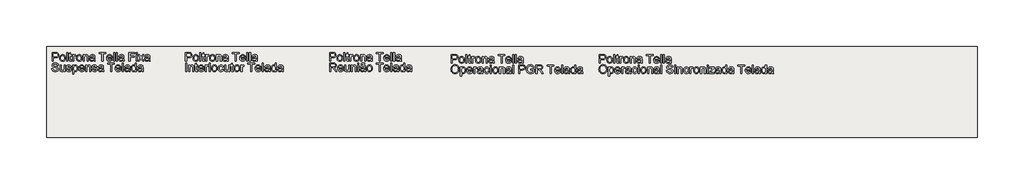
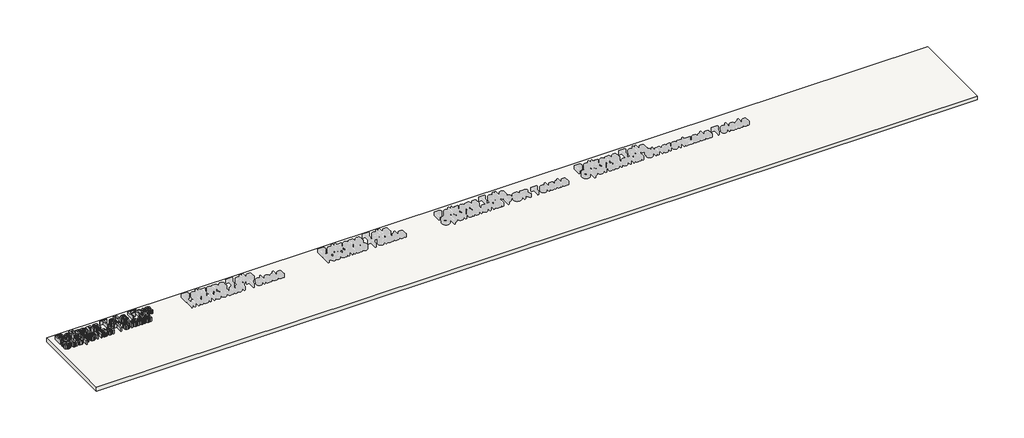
# One storey, part 1 of 5: 1 proxy, 1 slab.
"""IFC4 building model written with IfcOpenShell, lengths in millimetres."""

from ifc_helpers import new_model, si_unit, frame, origin, origin_with_axes, place, context, project, spatial, polyline, outline, extrude, element, save

model = new_model("IFC4")

# Units and contexts
model_context = context("Model", 3, world=origin())
ifc_project = project(units=[si_unit("LENGTHUNIT", "METRE", prefix="MILLI")], contexts=[model_context])

# Site, building, storey
site = spatial("IfcSite", under=ifc_project)
building = spatial("IfcBuilding", under=site)
storey = spatial("IfcBuildingStorey", under=building, Name="Nível 1", Elevation=0.0)

# Proxy
placement = place(None, origin())
element("IfcBuildingElementProxy", 1, Name="300 mm", ObjectType="300 mm", at=placement, inside=storey, context=model_context, shape_type="SweptSolid", body=[
    extrude(outline(polyline([(-9733.4445609, 6303.2273262), (-9733.4445609, 6604.5962566), (-9621.7555872, 6604.5962566), (-9576.726831, 6601.7267771), (-9556.6496711, 6596.364897), (-9540.1225724, 6587.6368966), (-9526.8144413, 6575.1473029), (-9516.3941838, 6558.5006426), (-9509.6619432, 6538.8649411), (-9507.4178631, 6517.4082238), (-9508.933077, 6498.9083579), (-9513.4787189, 6481.8892171), (-9521.0547888, 6466.3508014), (-9531.6612866, 6452.2931106), (-9546.2225158, 6440.6404484), (-9565.66278, 6432.3171183), (-9589.9820791, 6427.3231202), (-9619.1804132, 6425.6584542), (-9695.7734446, 6425.6584542), (-9695.7734446, 6303.2273262), (-9733.4445609, 6303.2273262)]), holes=[polyline([(-9695.7734446, 6463.3295705), (-9616.9731212, 6463.3295705), (-9583.5694361, 6466.7876612), (-9561.4965164, 6477.1619335), (-9549.1908636, 6493.8085938), (-9545.0889794, 6516.0838486), (-9547.5078035, 6533.0064204), (-9554.7642759, 6547.2802418), (-9565.9570856, 6558.022396), (-9580.1849217, 6564.3499663), (-9617.856038, 6566.9251403), (-9695.7734446, 6566.9251403), (-9695.7734446, 6463.3295705)])]), origin_with_axes(), (0.0, 0.0, 1.0), 150.0),
    extrude(outline(polyline([(-9469.7467468, 6413.8862303), (-9467.7096002, 6442.5488363), (-9461.5981606, 6467.2475137), (-9451.4124278, 6487.9822627), (-9437.152402, 6504.7530831), (-9422.7958071, 6515.4722448), (-9406.9492902, 6523.1287888), (-9389.6128512, 6527.7227152), (-9370.7864901, 6529.254024), (-9350.0034566, 6527.3893221), (-9331.2115844, 6521.7952165), (-9314.4108736, 6512.4717072), (-9299.601324, 6499.4187942), (-9287.5141012, 6483.0779358), (-9278.8803706, 6463.8905905), (-9273.7001323, 6441.8567583), (-9271.9733862, 6416.9764391), (-9275.0268067, 6378.9190467), (-9284.1870684, 6349.9483396), (-9299.1874568, 6328.2524989), (-9319.7612573, 6312.0197058), (-9344.1978189, 6301.8937539), (-9370.7864901, 6298.5184366), (-9391.8730262, 6300.3762407), (-9410.8396423, 6305.9496529), (-9427.6863384, 6315.2386733), (-9442.4131145, 6328.2433018), (-9454.3715786, 6344.7428093), (-9462.9133387, 6364.5164666), (-9468.0383947, 6387.5642736), (-9469.7467468, 6413.8862303)]), holes=[polyline([(-9432.0756305, 6413.9598067), (-9427.7162288, 6379.8663428), (-9414.6380239, 6355.5769341), (-9394.9563371, 6341.0363982), (-9370.7864901, 6336.1895529), (-9346.7270076, 6341.0639894), (-9327.082109, 6355.6872987), (-9314.0039041, 6380.2986042), (-9309.6445025, 6415.1370291), (-9314.0314953, 6448.2372116), (-9327.1924736, 6472.1955265), (-9346.8649633, 6486.7360624), (-9370.7864901, 6491.5829077), (-9394.9563371, 6486.7544565), (-9414.6380239, 6472.2691029), (-9427.7162288, 6448.0348765), (-9432.0756305, 6413.9598067)])]), origin_with_axes(), (0.0, 0.0, 1.0), 150.0),
    extrude(outline(polyline([(-9229.5933803, 6303.2273262), (-9229.5933803, 6604.5962566), (-9191.922264, 6604.5962566), (-9191.922264, 6303.2273262), (-9229.5933803, 6303.2273262)])), origin_with_axes(), (0.0, 0.0, 1.0), 150.0),
    extrude(outline(polyline([(-9055.3644674, 6334.6444486), (-9050.6555779, 6302.1236802), (-9078.8353387, 6298.5184366), (-9096.9167388, 6300.0819351), (-9110.3996139, 6304.7724305), (-9119.9277576, 6312.0013117), (-9126.1449633, 6321.1799675), (-9129.5662658, 6336.943711), (-9130.7067, 6363.9278554), (-9130.7067, 6486.8740182), (-9158.9600372, 6486.8740182), (-9158.9600372, 6524.5451345), (-9130.7067, 6524.5451345), (-9130.7067, 6578.3294822), (-9093.0355837, 6600.4759783), (-9093.0355837, 6524.5451345), (-9055.3644674, 6524.5451345), (-9055.3644674, 6486.8740182), (-9093.0355837, 6486.8740182), (-9093.0355837, 6365.0315014), (-9091.0490209, 6345.607332), (-9084.611086, 6338.7279387), (-9071.7720044, 6336.1895529), (-9055.3644674, 6334.6444486)])), origin_with_axes(), (0.0, 0.0, 1.0), 150.0),
    extrude(outline(polyline([(-9017.6933511, 6303.2273262), (-9017.6933511, 6524.5451345), (-8984.7311243, 6524.5451345), (-8984.7311243, 6491.8036369), (-8972.5542303, 6510.7863478), (-8961.3338294, 6521.9699605), (-8950.0766404, 6527.4330081), (-8937.7893817, 6529.254024), (-8919.0274, 6526.3477562), (-8899.9711126, 6517.628953), (-8912.5526769, 6483.8573858), (-8925.7964287, 6489.6515272), (-8939.0401805, 6491.5829077), (-8950.2881725, 6489.7251036), (-8960.340548, 6484.1516914), (-8968.4615431, 6475.2857353), (-8973.9153937, 6463.5502997), (-8978.4955245, 6442.5074495), (-8980.0222348, 6419.551613), (-8980.0222348, 6303.2273262), (-9017.6933511, 6303.2273262)])), origin_with_axes(), (0.0, 0.0, 1.0), 150.0),
    extrude(outline(polyline([(-8885.844444, 6413.8862303), (-8883.8072975, 6442.5488363), (-8877.6958578, 6467.2475137), (-8867.5101251, 6487.9822627), (-8853.2500992, 6504.7530831), (-8838.8935044, 6515.4722448), (-8823.0469874, 6523.1287888), (-8805.7105484, 6527.7227152), (-8786.8841873, 6529.254024), (-8766.1011539, 6527.3893221), (-8747.3092817, 6521.7952165), (-8730.5085708, 6512.4717072), (-8715.6990213, 6499.4187942), (-8703.6117984, 6483.0779358), (-8694.9780679, 6463.8905905), (-8689.7978295, 6441.8567583), (-8688.0710834, 6416.9764391), (-8691.124504, 6378.9190467), (-8700.2847657, 6349.9483396), (-8715.285154, 6328.2524989), (-8735.8589546, 6312.0197058), (-8760.2955161, 6301.8937539), (-8786.8841873, 6298.5184366), (-8807.9707234, 6300.3762407), (-8826.9373395, 6305.9496529), (-8843.7840357, 6315.2386733), (-8858.5108118, 6328.2433018), (-8870.4692759, 6344.7428093), (-8879.011036, 6364.5164666), (-8884.136092, 6387.5642736), (-8885.844444, 6413.8862303)]), holes=[polyline([(-8848.1733277, 6413.9598067), (-8843.8139261, 6379.8663428), (-8830.7357211, 6355.5769341), (-8811.0540344, 6341.0363982), (-8786.8841873, 6336.1895529), (-8762.8247048, 6341.0639894), (-8743.1798063, 6355.6872987), (-8730.1016014, 6380.2986042), (-8725.7421997, 6415.1370291), (-8730.1291925, 6448.2372116), (-8743.2901709, 6472.1955265), (-8762.9626606, 6486.7360624), (-8786.8841873, 6491.5829077), (-8811.0540344, 6486.7544565), (-8830.7357211, 6472.2691029), (-8843.8139261, 6448.0348765), (-8848.1733277, 6413.9598067)])]), origin_with_axes(), (0.0, 0.0, 1.0), 150.0),
    extrude(outline(polyline([(-8645.6910776, 6303.2273262), (-8645.6910776, 6524.5451345), (-8608.0199613, 6524.5451345), (-8608.0199613, 6493.6430469), (-8594.9325593, 6509.2228494), (-8579.214801, 6520.3512797), (-8560.8666865, 6527.0283379), (-8539.8882158, 6529.254024), (-8521.319372, 6527.4605993), (-8504.3140268, 6522.0803251), (-8490.1321759, 6513.7845861), (-8480.0338151, 6503.2447669), (-8468.7398379, 6475.5432527), (-8466.7532751, 6439.1229352), (-8466.7532751, 6303.2273262), (-8504.4243914, 6303.2273262), (-8504.4243914, 6434.0461636), (-8508.765399, 6467.3762724), (-8514.7710725, 6477.2998892), (-8524.1060782, 6484.99782), (-8536.0714401, 6489.9366358), (-8549.9681824, 6491.5829077), (-8572.0319051, 6487.8856936), (-8590.8398721, 6476.7940515), (-8598.3561611, 6467.7395559), (-8603.724939, 6455.3649253), (-8608.0199613, 6420.655259), (-8608.0199613, 6303.2273262), (-8645.6910776, 6303.2273262)])), origin_with_axes(), (0.0, 0.0, 1.0), 150.0),
    extrude(outline(polyline([(-8273.688804, 6331.4806634), (-8291.6874307, 6316.0480137), (-8310.2194862, 6305.9496529), (-8329.7080349, 6300.3762407), (-8350.576141, 6298.5184366), (-8382.0576428, 6302.9882029), (-8405.2801937, 6316.3975016), (-8419.6000004, 6336.75977), (-8424.3732693, 6362.0884454), (-8422.5706475, 6377.7050361), (-8417.1627822, 6391.886887), (-8408.8210579, 6404.0269928), (-8398.2168594, 6413.5183483), (-8371.8397204, 6425.8791834), (-8339.2453756, 6431.5445661), (-8300.7281307, 6437.5042544), (-8273.9095332, 6444.4940123), (-8273.688804, 6452.8817218), (-8276.2823721, 6469.693929), (-8284.0630763, 6480.6936006), (-8301.4638947, 6488.8605809), (-8325.7073182, 6491.5829077), (-8348.1481199, 6489.7710889), (-8363.8198929, 6484.3356324), (-8374.5068648, 6474.2832569), (-8381.9932634, 6458.6206809), (-8419.6643797, 6463.3295705), (-8413.1252773, 6483.9309622), (-8403.3672073, 6500.11777), (-8389.479662, 6512.4969991), (-8370.5521334, 6521.6756549), (-8347.4031588, 6527.3594317), (-8320.8512758, 6529.254024), (-8295.3846447, 6527.5801609), (-8275.1971202, 6522.5585717), (-8259.9760027, 6515.0077937), (-8249.4085924, 6505.7463645), (-8242.4004404, 6494.2960374), (-8237.8570977, 6480.1785658), (-8236.0176877, 6447.2163391), (-8236.0176877, 6400.3481729), (-8234.1047014, 6334.9019659), (-8226.5999087, 6303.2273262), (-8264.271025, 6303.2273262), (-8273.688804, 6331.4806634)]), holes=[polyline([(-8273.688804, 6406.822896), (-8334.4629096, 6395.2714014), (-8366.8733134, 6389.1645602), (-8381.551805, 6379.2317464), (-8386.702153, 6364.7371958), (-8383.8970528, 6353.535189), (-8375.4817521, 6344.3565332), (-8361.640192, 6338.231298), (-8342.5563135, 6336.1895529), (-8322.3228038, 6338.4428302), (-8304.4437388, 6345.2026618), (-8289.9491882, 6355.1630668), (-8279.8692216, 6367.0180641), (-8275.3994553, 6379.2317464), (-8273.9095332, 6396.1543181), (-8273.688804, 6406.822896)])]), origin_with_axes(), (0.0, 0.0, 1.0), 150.0),
    extrude(outline(polyline([(-7986.4465422, 6303.2273262), (-7986.4465422, 6566.9251403), (-8085.3332225, 6566.9251403), (-8085.3332225, 6604.5962566), (-7849.8887456, 6604.5962566), (-7849.8887456, 6566.9251403), (-7948.7754259, 6566.9251403), (-7948.7754259, 6303.2273262), (-7986.4465422, 6303.2273262)])), origin_with_axes(), (0.0, 0.0, 1.0), 150.0),
    extrude(outline(polyline([(-7657.2657329, 6369.1517797), (-7620.3303806, 6364.4428902), (-7633.6385118, 6336.6126172), (-7654.8745, 6315.8088904), (-7683.5600985, 6302.8410501), (-7719.2170609, 6298.5184366), (-7742.5913632, 6300.3831385), (-7763.4180826, 6305.9772441), (-7781.6972193, 6315.3007534), (-7797.4287731, 6328.3536664), (-7810.0793152, 6344.7726997), (-7819.1154167, 6364.1945698), (-7824.5370776, 6386.6192767), (-7826.3442979, 6412.0468203), (-7824.5186835, 6438.3365874), (-7819.0418403, 6461.5085546), (-7809.9137683, 6481.5627219), (-7797.1344675, 6498.4990892), (-7781.4443004, 6511.9543732), (-7763.5836295, 6521.5652903), (-7743.5524549, 6527.3318406), (-7721.3507765, 6529.254024), (-7699.8641687, 6527.3364391), (-7680.4331016, 6521.5836844), (-7663.0575751, 6511.9957599), (-7647.7375893, 6498.5726656), (-7635.2319007, 6481.6730864), (-7626.299266, 6461.6557074), (-7620.9396852, 6438.5205284), (-7619.1531582, 6412.2675495), (-7619.3738874, 6402.1140065), (-7788.6731816, 6402.1140065), (-7782.1524732, 6373.9158515), (-7767.0049321, 6353.1857011), (-7745.1435445, 6340.43859), (-7718.4812969, 6336.1895529), (-7698.4317282, 6338.1577216), (-7681.5459446, 6344.0622276), (-7667.8239462, 6354.270953), (-7657.2657329, 6369.1517797)]), holes=[polyline([(-7788.6731816, 6439.7851228), (-7656.8242745, 6439.7851228), (-7661.9194402, 6459.6875387), (-7671.9074363, 6473.9245719), (-7693.8699914, 6487.1683238), (-7721.4979293, 6491.5829077), (-7746.890984, 6488.0604376), (-7767.8878489, 6477.4930273), (-7782.483567, 6461.0211109), (-7788.6731816, 6439.7851228)])]), origin_with_axes(), (0.0, 0.0, 1.0), 150.0),
    extrude(outline(polyline([(-7581.4820419, 6303.2273262), (-7581.4820419, 6604.5962566), (-7543.8109256, 6604.5962566), (-7543.8109256, 6303.2273262), (-7581.4820419, 6303.2273262)])), origin_with_axes(), (0.0, 0.0, 1.0), 150.0),
    extrude(outline(polyline([(-7487.3042512, 6303.2273262), (-7487.3042512, 6604.5962566), (-7449.6331349, 6604.5962566), (-7449.6331349, 6303.2273262), (-7487.3042512, 6303.2273262)])), origin_with_axes(), (0.0, 0.0, 1.0), 150.0),
    extrude(outline(polyline([(-7251.8597742, 6331.4806634), (-7269.8584009, 6316.0480137), (-7288.3904564, 6305.9496529), (-7307.8790051, 6300.3762407), (-7328.7471112, 6298.5184366), (-7360.228613, 6302.9882029), (-7383.4511639, 6316.3975016), (-7397.7709706, 6336.75977), (-7402.5442395, 6362.0884454), (-7400.7416177, 6377.7050361), (-7395.3337524, 6391.886887), (-7386.9920281, 6404.0269928), (-7376.3878296, 6413.5183483), (-7350.0106906, 6425.8791834), (-7317.4163458, 6431.5445661), (-7278.8991009, 6437.5042544), (-7252.0805034, 6444.4940123), (-7251.8597742, 6452.8817218), (-7254.4533423, 6469.693929), (-7262.2340465, 6480.6936006), (-7279.6348649, 6488.8605809), (-7303.8782884, 6491.5829077), (-7326.3190901, 6489.7710889), (-7341.9908631, 6484.3356324), (-7352.677835, 6474.2832569), (-7360.1642336, 6458.6206809), (-7397.8353499, 6463.3295705), (-7391.2962475, 6483.9309622), (-7381.5381775, 6500.11777), (-7367.6506322, 6512.4969991), (-7348.7231036, 6521.6756549), (-7325.574129, 6527.3594317), (-7299.022246, 6529.254024), (-7273.5556149, 6527.5801609), (-7253.3680904, 6522.5585717), (-7238.1469729, 6515.0077937), (-7227.5795626, 6505.7463645), (-7220.5714106, 6494.2960374), (-7216.0280679, 6480.1785658), (-7214.1886579, 6447.2163391), (-7214.1886579, 6400.3481729), (-7212.2756716, 6334.9019659), (-7204.7708789, 6303.2273262), (-7242.4419952, 6303.2273262), (-7251.8597742, 6331.4806634)]), holes=[polyline([(-7251.8597742, 6406.822896), (-7312.6338798, 6395.2714014), (-7345.0442836, 6389.1645602), (-7359.7227752, 6379.2317464), (-7364.8731232, 6364.7371958), (-7362.0680229, 6353.535189), (-7353.6527223, 6344.3565332), (-7339.8111622, 6338.231298), (-7320.7272837, 6336.1895529), (-7300.493774, 6338.4428302), (-7282.614709, 6345.2026618), (-7268.1201584, 6355.1630668), (-7258.0401918, 6367.0180641), (-7253.5704255, 6379.2317464), (-7252.0805034, 6396.1543181), (-7251.8597742, 6406.822896)])]), origin_with_axes(), (0.0, 0.0, 1.0), 150.0),
    extrude(outline(polyline([(-7039.959745, 6303.2273262), (-7039.959745, 6604.5962566), (-6837.4774949, 6604.5962566), (-6837.4774949, 6566.9251403), (-7002.2886287, 6566.9251403), (-7002.2886287, 6477.4562391), (-6861.0219426, 6477.4562391), (-6861.0219426, 6439.7851228), (-7002.2886287, 6439.7851228), (-7002.2886287, 6303.2273262), (-7039.959745, 6303.2273262)])), origin_with_axes(), (0.0, 0.0, 1.0), 150.0),
    extrude(outline(polyline([(-6790.3885995, 6566.9251403), (-6790.3885995, 6604.5962566), (-6752.7174832, 6604.5962566), (-6752.7174832, 6566.9251403), (-6790.3885995, 6566.9251403)])), origin_with_axes(), (0.0, 0.0, 1.0), 150.0),
    extrude(outline(polyline([(-6790.3885995, 6303.2273262), (-6790.3885995, 6524.5451345), (-6752.7174832, 6524.5451345), (-6752.7174832, 6303.2273262), (-6790.3885995, 6303.2273262)])), origin_with_axes(), (0.0, 0.0, 1.0), 150.0),
    extrude(outline(polyline([(-6719.7552564, 6303.2273262), (-6639.2626759, 6414.4748415), (-6715.0463669, 6524.5451345), (-6669.7233051, 6524.5451345), (-6633.1558348, 6471.5701272), (-6616.0861102, 6446.5541515), (-6601.297254, 6467.0083904), (-6559.6530121, 6524.5451345), (-6514.3299503, 6524.5451345), (-6593.9396141, 6414.4748415), (-6517.2730063, 6303.2273262), (-6562.5960681, 6303.2273262), (-6608.7284703, 6370.1082729), (-6617.1897562, 6382.3219551), (-6674.4321946, 6303.2273262), (-6719.7552564, 6303.2273262)])), origin_with_axes(), (0.0, 0.0, 1.0), 150.0),
    extrude(outline(polyline([(-6343.0440934, 6331.4806634), (-6361.04272, 6316.0480137), (-6379.5747755, 6305.9496529), (-6399.0633242, 6300.3762407), (-6419.9314304, 6298.5184366), (-6451.4129321, 6302.9882029), (-6474.635483, 6316.3975016), (-6488.9552897, 6336.75977), (-6493.7285586, 6362.0884454), (-6491.9259368, 6377.7050361), (-6486.5180715, 6391.886887), (-6478.1763472, 6404.0269928), (-6467.5721487, 6413.5183483), (-6441.1950097, 6425.8791834), (-6408.6006649, 6431.5445661), (-6370.08342, 6437.5042544), (-6343.2648226, 6444.4940123), (-6343.0440934, 6452.8817218), (-6345.6376614, 6469.693929), (-6353.4183656, 6480.6936006), (-6370.819184, 6488.8605809), (-6395.0626075, 6491.5829077), (-6417.5034092, 6489.7710889), (-6433.1751822, 6484.3356324), (-6443.8621541, 6474.2832569), (-6451.3485527, 6458.6206809), (-6489.019669, 6463.3295705), (-6482.4805666, 6483.9309622), (-6472.7224967, 6500.11777), (-6458.8349513, 6512.4969991), (-6439.9074227, 6521.6756549), (-6416.7584481, 6527.3594317), (-6390.2065651, 6529.254024), (-6364.739934, 6527.5801609), (-6344.5524095, 6522.5585717), (-6329.331292, 6515.0077937), (-6318.7638817, 6505.7463645), (-6311.7557297, 6494.2960374), (-6307.212387, 6480.1785658), (-6305.3729771, 6447.2163391), (-6305.3729771, 6400.3481729), (-6303.4599907, 6334.9019659), (-6295.955198, 6303.2273262), (-6333.6263143, 6303.2273262), (-6343.0440934, 6331.4806634)]), holes=[polyline([(-6343.0440934, 6406.822896), (-6403.818199, 6395.2714014), (-6436.2286027, 6389.1645602), (-6450.9070943, 6379.2317464), (-6456.0574423, 6364.7371958), (-6453.2523421, 6353.535189), (-6444.8370414, 6344.3565332), (-6430.9954814, 6338.231298), (-6411.9116029, 6336.1895529), (-6391.6780931, 6338.4428302), (-6373.7990282, 6345.2026618), (-6359.3044775, 6355.1630668), (-6349.2245109, 6367.0180641), (-6344.7547446, 6379.2317464), (-6343.2648226, 6396.1543181), (-6343.0440934, 6406.822896)])]), origin_with_axes(), (0.0, 0.0, 1.0), 150.0),
    extrude(outline(polyline([(-9747.5712295, 6040.8984425), (-9709.9001132, 6040.8984425), (-9705.5774998, 6019.9935481), (-9697.7600074, 6003.190538), (-9685.5647192, 5989.8548156), (-9668.1087186, 5979.3517847), (-9646.7715628, 5972.5367707), (-9622.9328096, 5970.2650994), (-9601.9451417, 5971.9849477), (-9583.5694361, 5977.1444927), (-9568.6794123, 5985.311473), (-9558.1487902, 5996.0536273), (-9551.8855992, 6008.3868711), (-9549.7978689, 6021.3271203), (-9551.3613674, 6033.9362757), (-9556.0518628, 6044.8347798), (-9565.5800065, 6054.1329972), (-9581.6564497, 6061.9412926), (-9636.5076552, 6076.3254786), (-9672.5141055, 6085.8444252), (-9695.5527154, 6094.9035194), (-9714.3055001, 6107.5770541), (-9727.5952372, 6122.9361274), (-9735.5138971, 6140.6496455), (-9738.1534504, 6160.3865145), (-9734.8884977, 6182.4502372), (-9725.0936396, 6203.0240377), (-9709.0263935, 6220.4616443), (-9686.9442767, 6233.1167849), (-9660.438379, 6240.8147157), (-9631.0997898, 6243.3806926), (-9599.3147855, 6240.6951541), (-9571.5029066, 6232.6385384), (-9548.6574347, 6219.3763924), (-9531.7716512, 6201.0742632), (-9521.0846792, 6178.8725848), (-9516.8356421, 6153.9117914), (-9554.5067585, 6153.9117914), (-9561.42294, 6176.3893813), (-9575.8439142, 6192.6129773), (-9598.3766864, 6202.4354266), (-9629.6282619, 6205.7095763), (-9661.6156013, 6202.4722148), (-9683.5597624, 6192.7601301), (-9696.2516912, 6178.4679146), (-9700.4823341, 6161.4901605), (-9697.4840959, 6147.014004), (-9688.4893811, 6135.3705388), (-9667.2258018, 6124.9594784), (-9626.9795115, 6114.3276887), (-9585.4456342, 6104.2293279), (-9560.319294, 6095.4185542), (-9538.8441825, 6081.751738), (-9523.8621883, 6064.8843486), (-9515.0606115, 6045.0003267), (-9512.1267526, 6022.2836135), (-9515.5020699, 5999.0610626), (-9525.6280218, 5977.2180691), (-9542.0907411, 5958.4192992), (-9564.4763605, 5944.3294187), (-9591.3961255, 5935.527842), (-9621.4612816, 5932.5939831), (-9658.3690427, 5935.7577682), (-9688.7468985, 5945.2491237), (-9712.9443367, 5961.1048377), (-9731.3108453, 5983.3616984), (-9743.1014633, 6010.4746015), (-9747.5712295, 6040.8984425)])), origin_with_axes(), (0.0, 0.0, 1.0), 150.0),
    extrude(outline(polyline([(-9319.0622815, 5937.3028726), (-9319.0622815, 5975.3418709), (-9332.6923095, 5956.63967), (-9348.5664176, 5943.280955), (-9366.6846058, 5935.2657261), (-9387.0468742, 5932.5939831), (-9405.3949888, 5934.4701813), (-9422.4739104, 5940.0987758), (-9436.8029141, 5948.5600617), (-9446.9012749, 5958.9343339), (-9458.1216757, 5986.6726364), (-9460.3289677, 6021.6950023), (-9460.3289677, 6158.6206809), (-9422.6578514, 6158.6206809), (-9422.6578514, 6039.4269145), (-9420.376983, 6001.0200342), (-9414.8863442, 5988.2085437), (-9405.4777622, 5978.4688679), (-9392.7766363, 5972.3160415), (-9377.408366, 5970.2650994), (-9361.1571788, 5972.3620268), (-9345.9544554, 5978.6528089), (-9333.4188764, 5988.5580316), (-9325.1691227, 6001.4982808), (-9320.5889918, 6019.2209959), (-9319.0622815, 6043.4736164), (-9319.0622815, 6158.6206809), (-9281.3911652, 6158.6206809), (-9281.3911652, 5937.3028726), (-9319.0622815, 5937.3028726)])), origin_with_axes(), (0.0, 0.0, 1.0), 150.0),
    extrude(outline(polyline([(-9243.7200489, 6003.2273262), (-9206.0489326, 6007.9362157), (-9200.1076384, 5991.8229843), (-9188.6113261, 5979.9771841), (-9171.4864192, 5972.6931206), (-9148.6593414, 5970.2650994), (-9126.1081751, 5972.4907855), (-9110.2524611, 5979.1678437), (-9100.8714702, 5988.8431402), (-9097.7444732, 6000.063541), (-9100.8898643, 6009.6652611), (-9110.3260375, 6016.9861128), (-9149.1007998, 6027.728267), (-9205.8282034, 6046.159155), (-9220.1847983, 6055.4205842), (-9230.5866617, 6067.6802517), (-9236.905035, 6082.1564082), (-9239.0111594, 6098.0673045), (-9237.3189022, 6112.6630227), (-9232.2421307, 6126.1367008), (-9224.2406973, 6137.9549098), (-9213.7744545, 6147.5842211), (-9189.8253366, 6158.7310455), (-9157.4149329, 6163.3295705), (-9132.8955979, 6161.4809634), (-9111.5768363, 6155.9351424), (-9094.4335353, 6147.2347332), (-9082.4405822, 6135.9223618), (-9074.4943311, 6121.1610968), (-9069.491136, 6102.1140065), (-9107.1622523, 6097.4051169), (-9111.9171271, 6109.2601142), (-9121.3257091, 6118.1904497), (-9135.4799689, 6123.791453), (-9154.4718769, 6125.6584542), (-9176.1033382, 6123.8742265), (-9190.5243124, 6118.5215435), (-9198.6361104, 6110.7960216), (-9201.3400431, 6101.8932773), (-9196.8518827, 6090.9303938), (-9182.7987905, 6082.6162607), (-9150.3515986, 6074.5964332), (-9095.0589347, 6056.8645211), (-9080.4540195, 6048.3848411), (-9069.3807714, 6036.7781641), (-9062.4002106, 6022.007702), (-9060.0733569, 6004.0366666), (-9062.8048808, 5985.4586258), (-9070.9994522, 5967.984231), (-9084.3443716, 5952.9838427), (-9102.5269392, 5941.8278212), (-9124.4894943, 5934.9024426), (-9149.1743762, 5932.5939831), (-9187.1581922, 5937.0453552), (-9214.8781005, 5950.3994717), (-9233.3825649, 5972.5091796), (-9243.7200489, 6003.2273262)])), origin_with_axes(), (0.0, 0.0, 1.0), 150.0),
    extrude(outline(polyline([(-9017.6933511, 5852.5428609), (-9017.6933511, 6158.6206809), (-8980.0222348, 6158.6206809), (-8980.0222348, 6121.6853286), (-8967.7349761, 6139.9046844), (-8953.9761895, 6152.91851), (-8937.9365345, 6160.7268053), (-8918.8066708, 6163.3295705), (-8893.3308426, 6159.6875387), (-8871.0555878, 6148.7614435), (-8852.9190055, 6131.2134723), (-8839.8591946, 6107.7058128), (-8831.9681258, 6079.9491163), (-8829.3377696, 6049.654034), (-8832.3084167, 6017.4367682), (-8841.220358, 5988.622411), (-8855.788485, 5964.6732931), (-8875.7276892, 5947.0517455), (-8898.9502401, 5936.2084237), (-8923.3684075, 5932.5939831), (-8940.6864525, 5935.0128072), (-8956.1466933, 5942.2692796), (-8969.3812481, 5953.222966), (-8980.0222348, 5966.7334322), (-8980.0222348, 5852.5428609), (-9017.6933511, 5852.5428609)]), holes=[polyline([(-8980.0222348, 6046.1959432), (-8975.9479417, 6012.424376), (-8963.7250624, 5988.806352), (-8945.6896476, 5974.9004125), (-8924.1777479, 5970.2650994), (-8902.3163604, 5975.0659594), (-8883.821093, 5989.4685395), (-8871.2119377, 6013.9510863), (-8867.0088859, 6048.9918464), (-8871.1107701, 6082.5794725), (-8883.4164229, 6106.5285904), (-8901.4242465, 6120.8759882), (-8922.6326435, 6125.6584542), (-8943.923814, 6120.5724856), (-8962.6214164, 6105.3145798), (-8975.6720302, 6080.3629835), (-8980.0222348, 6046.1959432)])]), origin_with_axes(), (0.0, 0.0, 1.0), 150.0),
    extrude(outline(polyline([(-8632.0058673, 6003.2273262), (-8595.070515, 5998.5184366), (-8608.3786462, 5970.6881637), (-8629.6146344, 5949.8844369), (-8658.300233, 5936.9165965), (-8693.9571953, 5932.5939831), (-8717.3314976, 5934.458685), (-8738.1582171, 5940.0527905), (-8756.4373537, 5949.3762999), (-8772.1689075, 5962.4292129), (-8784.8194496, 5978.8482462), (-8793.8555511, 5998.2701163), (-8799.277212, 6020.6948231), (-8801.0844323, 6046.1223668), (-8799.2588179, 6072.4121339), (-8793.7819747, 6095.5841011), (-8784.6539027, 6115.6382683), (-8771.8746019, 6132.5746357), (-8756.1844348, 6146.0299196), (-8738.323764, 6155.6408368), (-8718.2925893, 6161.407387), (-8696.0909109, 6163.3295705), (-8674.6043031, 6161.4119856), (-8655.173236, 6155.6592309), (-8637.7977095, 6146.0713064), (-8622.4777237, 6132.6482121), (-8609.9720351, 6115.7486329), (-8601.0394004, 6095.7312539), (-8595.6798196, 6072.5960749), (-8593.8932926, 6046.343096), (-8594.1140218, 6036.1895529), (-8763.413316, 6036.1895529), (-8756.8926077, 6007.991398), (-8741.7450665, 5987.2612476), (-8719.8836789, 5974.5141364), (-8693.2214313, 5970.2650994), (-8673.1718626, 5972.2332681), (-8656.286079, 5978.1377741), (-8642.5640806, 5988.3464995), (-8632.0058673, 6003.2273262)]), holes=[polyline([(-8763.413316, 6073.8606692), (-8631.564409, 6073.8606692), (-8636.6595746, 6093.7630852), (-8646.6475708, 6108.0001184), (-8668.6101259, 6121.2438702), (-8696.2380637, 6125.6584542), (-8721.6311184, 6122.1359841), (-8742.6279833, 6111.5685737), (-8757.2237015, 6095.0966574), (-8763.413316, 6073.8606692)])]), origin_with_axes(), (0.0, 0.0, 1.0), 150.0),
    extrude(outline(polyline([(-8556.2221763, 5937.3028726), (-8556.2221763, 6158.6206809), (-8518.55106, 6158.6206809), (-8518.55106, 6127.7185933), (-8505.4636581, 6143.2983958), (-8489.7458998, 6154.4268262), (-8471.3977853, 6161.1038844), (-8450.4193145, 6163.3295705), (-8431.8504708, 6161.5361457), (-8414.8451256, 6156.1558716), (-8400.6632747, 6147.8601326), (-8390.5649139, 6137.3203134), (-8379.2709367, 6109.6187992), (-8377.2843739, 6073.1984816), (-8377.2843739, 5937.3028726), (-8414.9554902, 5937.3028726), (-8414.9554902, 6068.1217101), (-8419.2964977, 6101.4518189), (-8425.3021713, 6111.3754357), (-8434.6371769, 6119.0733664), (-8446.6025388, 6124.0121822), (-8460.4992812, 6125.6584542), (-8482.5630039, 6121.9612401), (-8501.3709709, 6110.869598), (-8508.8872599, 6101.8151023), (-8514.2560377, 6089.4404717), (-8518.55106, 6054.7308055), (-8518.55106, 5937.3028726), (-8556.2221763, 5937.3028726)])), origin_with_axes(), (0.0, 0.0, 1.0), 150.0),
    extrude(outline(polyline([(-8339.6132576, 6003.2273262), (-8301.9421413, 6007.9362157), (-8296.0008471, 5991.8229843), (-8284.5045347, 5979.9771841), (-8267.3796278, 5972.6931206), (-8244.55255, 5970.2650994), (-8222.0013837, 5972.4907855), (-8206.1456697, 5979.1678437), (-8196.7646789, 5988.8431402), (-8193.6376819, 6000.063541), (-8196.783073, 6009.6652611), (-8206.2192461, 6016.9861128), (-8244.9940084, 6027.728267), (-8301.7214121, 6046.159155), (-8316.0780069, 6055.4205842), (-8326.4798704, 6067.6802517), (-8332.7982436, 6082.1564082), (-8334.904368, 6098.0673045), (-8333.2121109, 6112.6630227), (-8328.1353393, 6126.1367008), (-8320.1339059, 6137.9549098), (-8309.6676632, 6147.5842211), (-8285.7185453, 6158.7310455), (-8253.3081415, 6163.3295705), (-8228.7888065, 6161.4809634), (-8207.4700449, 6155.9351424), (-8190.3267439, 6147.2347332), (-8178.3337909, 6135.9223618), (-8170.3875398, 6121.1610968), (-8165.3843447, 6102.1140065), (-8203.055461, 6097.4051169), (-8207.8103358, 6109.2601142), (-8217.2189178, 6118.1904497), (-8231.3731776, 6123.791453), (-8250.3650856, 6125.6584542), (-8271.9965469, 6123.8742265), (-8286.4175211, 6118.5215435), (-8294.5293191, 6110.7960216), (-8297.2332517, 6101.8932773), (-8292.7450914, 6090.9303938), (-8278.6919992, 6082.6162607), (-8246.2448072, 6074.5964332), (-8190.9521433, 6056.8645211), (-8176.3472281, 6048.3848411), (-8165.2739801, 6036.7781641), (-8158.2934192, 6022.007702), (-8155.9665656, 6004.0366666), (-8158.6980894, 5985.4586258), (-8166.8926608, 5967.984231), (-8180.2375802, 5952.9838427), (-8198.4201478, 5941.8278212), (-8220.3827029, 5934.9024426), (-8245.0675848, 5932.5939831), (-8283.0514008, 5937.0453552), (-8310.7713092, 5950.3994717), (-8329.2757735, 5972.5091796), (-8339.6132576, 6003.2273262)])), origin_with_axes(), (0.0, 0.0, 1.0), 150.0),
    extrude(outline(polyline([(-7972.3198736, 5965.5562099), (-7990.3185002, 5950.1235602), (-8008.8505557, 5940.0251994), (-8028.3391044, 5934.4517872), (-8049.2072106, 5932.5939831), (-8080.6887123, 5937.0637493), (-8103.9112633, 5950.4730481), (-8118.2310699, 5970.8353165), (-8123.0043388, 5996.1639919), (-8121.201717, 6011.7805826), (-8115.7938517, 6025.9624335), (-8107.4521275, 6038.1025393), (-8096.847929, 6047.5938948), (-8070.4707899, 6059.9547298), (-8037.8764451, 6065.6201125), (-7999.3592002, 6071.5798009), (-7972.5406028, 6078.5695588), (-7972.3198736, 6086.9572683), (-7974.9134417, 6103.7694754), (-7982.6941459, 6114.7691471), (-8000.0949642, 6122.9361274), (-8024.3383877, 6125.6584542), (-8046.7791894, 6123.8466353), (-8062.4509624, 6118.4111789), (-8073.1379344, 6108.3588033), (-8080.624333, 6092.6962274), (-8118.2954493, 6097.4051169), (-8111.7563468, 6118.0065087), (-8101.9982769, 6134.1933164), (-8088.1107316, 6146.5725456), (-8069.1832029, 6155.7512014), (-8046.0342284, 6161.4349782), (-8019.4823454, 6163.3295705), (-7994.0157143, 6161.6557074), (-7973.8281898, 6156.6341182), (-7958.6070722, 6149.0833402), (-7948.0396619, 6139.821911), (-7941.0315099, 6128.3715839), (-7936.4881673, 6114.2541123), (-7934.6487573, 6081.2918855), (-7934.6487573, 6034.4237194), (-7932.7357709, 5968.9775124), (-7925.2309782, 5937.3028726), (-7962.9020945, 5937.3028726), (-7972.3198736, 5965.5562099)]), holes=[polyline([(-7972.3198736, 6040.8984425), (-8033.0939792, 6029.3469478), (-8065.504383, 6023.2401067), (-8080.1828746, 6013.3072928), (-8085.3332225, 5998.8127422), (-8082.5281223, 5987.6107355), (-8074.1128217, 5978.4320797), (-8060.2712616, 5972.3068445), (-8041.1873831, 5970.2650994), (-8020.9538734, 5972.5183766), (-8003.0748084, 5979.2782083), (-7988.5802578, 5989.2386133), (-7978.5002911, 6001.0936106), (-7974.0305249, 6013.3072928), (-7972.5406028, 6030.2298646), (-7972.3198736, 6040.8984425)])]), origin_with_axes(), (0.0, 0.0, 1.0), 150.0),
    extrude(outline(polyline([(-7685.0776118, 5937.3028726), (-7685.0776118, 6201.0006868), (-7783.9642921, 6201.0006868), (-7783.9642921, 6238.6718031), (-7548.5198152, 6238.6718031), (-7548.5198152, 6201.0006868), (-7647.4064955, 6201.0006868), (-7647.4064955, 5937.3028726), (-7685.0776118, 5937.3028726)])), origin_with_axes(), (0.0, 0.0, 1.0), 150.0),
    extrude(outline(polyline([(-7355.8968025, 6003.2273262), (-7318.9614502, 5998.5184366), (-7332.2695813, 5970.6881637), (-7353.5055695, 5949.8844369), (-7382.1911681, 5936.9165965), (-7417.8481305, 5932.5939831), (-7441.2224327, 5934.458685), (-7462.0491522, 5940.0527905), (-7480.3282888, 5949.3762999), (-7496.0598426, 5962.4292129), (-7508.7103848, 5978.8482462), (-7517.7464863, 5998.2701163), (-7523.1681472, 6020.6948231), (-7524.9753675, 6046.1223668), (-7523.1497531, 6072.4121339), (-7517.6729099, 6095.5841011), (-7508.5448379, 6115.6382683), (-7495.765537, 6132.5746357), (-7480.07537, 6146.0299196), (-7462.2146991, 6155.6408368), (-7442.1835244, 6161.407387), (-7419.981846, 6163.3295705), (-7398.4952383, 6161.4119856), (-7379.0641711, 6155.6592309), (-7361.6886446, 6146.0713064), (-7346.3686588, 6132.6482121), (-7333.8629702, 6115.7486329), (-7324.9303355, 6095.7312539), (-7319.5707547, 6072.5960749), (-7317.7842278, 6046.343096), (-7318.004957, 6036.1895529), (-7487.3042512, 6036.1895529), (-7480.7835428, 6007.991398), (-7465.6360016, 5987.2612476), (-7443.7746141, 5974.5141364), (-7417.1123665, 5970.2650994), (-7397.0627977, 5972.2332681), (-7380.1770142, 5978.1377741), (-7366.4550157, 5988.3464995), (-7355.8968025, 6003.2273262)]), holes=[polyline([(-7487.3042512, 6073.8606692), (-7355.4553441, 6073.8606692), (-7360.5505097, 6093.7630852), (-7370.5385059, 6108.0001184), (-7392.501061, 6121.2438702), (-7420.1289988, 6125.6584542), (-7445.5220536, 6122.1359841), (-7466.5189184, 6111.5685737), (-7481.1146366, 6095.0966574), (-7487.3042512, 6073.8606692)])]), origin_with_axes(), (0.0, 0.0, 1.0), 150.0),
    extrude(outline(polyline([(-7280.1131115, 5937.3028726), (-7280.1131115, 6238.6718031), (-7242.4419952, 6238.6718031), (-7242.4419952, 5937.3028726), (-7280.1131115, 5937.3028726)])), origin_with_axes(), (0.0, 0.0, 1.0), 150.0),
    extrude(outline(polyline([(-7044.6686346, 5965.5562099), (-7062.6672612, 5950.1235602), (-7081.1993167, 5940.0251994), (-7100.6878654, 5934.4517872), (-7121.5559716, 5932.5939831), (-7153.0374733, 5937.0637493), (-7176.2600242, 5950.4730481), (-7190.5798309, 5970.8353165), (-7195.3530998, 5996.1639919), (-7193.550478, 6011.7805826), (-7188.1426127, 6025.9624335), (-7179.8008884, 6038.1025393), (-7169.1966899, 6047.5938948), (-7142.8195509, 6059.9547298), (-7110.2252061, 6065.6201125), (-7071.7079612, 6071.5798009), (-7044.8893638, 6078.5695588), (-7044.6686346, 6086.9572683), (-7047.2622026, 6103.7694754), (-7055.0429068, 6114.7691471), (-7072.4437252, 6122.9361274), (-7096.6871487, 6125.6584542), (-7119.1279504, 6123.8466353), (-7134.7997234, 6118.4111789), (-7145.4866953, 6108.3588033), (-7152.9730939, 6092.6962274), (-7190.6442102, 6097.4051169), (-7184.1051078, 6118.0065087), (-7174.3470379, 6134.1933164), (-7160.4594925, 6146.5725456), (-7141.5319639, 6155.7512014), (-7118.3829893, 6161.4349782), (-7091.8311063, 6163.3295705), (-7066.3644752, 6161.6557074), (-7046.1769507, 6156.6341182), (-7030.9558332, 6149.0833402), (-7020.3884229, 6139.821911), (-7013.3802709, 6128.3715839), (-7008.8369282, 6114.2541123), (-7006.9975183, 6081.2918855), (-7006.9975183, 6034.4237194), (-7005.0845319, 5968.9775124), (-6997.5797392, 5937.3028726), (-7035.2508555, 5937.3028726), (-7044.6686346, 5965.5562099)]), holes=[polyline([(-7044.6686346, 6040.8984425), (-7105.4427402, 6029.3469478), (-7137.8531439, 6023.2401067), (-7152.5316355, 6013.3072928), (-7157.6819835, 5998.8127422), (-7154.8768833, 5987.6107355), (-7146.4615826, 5978.4320797), (-7132.6200226, 5972.3068445), (-7113.5361441, 5970.2650994), (-7093.3026343, 5972.5183766), (-7075.4235694, 5979.2782083), (-7060.9290187, 5989.2386133), (-7050.8490521, 6001.0936106), (-7046.3792858, 6013.3072928), (-7044.8893638, 6030.2298646), (-7044.6686346, 6040.8984425)])]), origin_with_axes(), (0.0, 0.0, 1.0), 150.0),
    extrude(outline(polyline([(-6818.6419367, 5937.3028726), (-6818.6419367, 5972.8402734), (-6829.9129214, 5955.2325214), (-6843.5659419, 5942.6555557), (-6859.6009984, 5935.1093762), (-6878.0180907, 5932.5939831), (-6902.3718788, 5936.2360148), (-6924.6655277, 5947.1621101), (-6943.5378741, 5964.6089137), (-6957.6277545, 5987.8130706), (-6966.4017401, 6015.8364815), (-6969.3264019, 6047.7410476), (-6966.6316663, 6079.2501405), (-6958.5474595, 6107.7058128), (-6945.0829785, 6131.4893838), (-6926.2474203, 6148.9821727), (-6903.4663278, 6159.742721), (-6878.1652435, 6163.3295705), (-6859.7343556, 6160.7635935), (-6843.4371832, 6153.0656628), (-6829.6232143, 6141.2658478), (-6818.6419367, 6126.3942181), (-6818.6419367, 6238.6718031), (-6780.9708204, 6238.6718031), (-6780.9708204, 5937.3028726), (-6818.6419367, 5937.3028726)]), holes=[polyline([(-6931.6552856, 6047.8882004), (-6927.4062486, 6013.8131306), (-6914.6591375, 5989.5789041), (-6896.136279, 5975.0935506), (-6874.56, 5970.2650994), (-6852.992918, 5974.8728214), (-6834.9391091, 5988.6959874), (-6822.7162298, 6011.9921147), (-6818.6419367, 6045.0187208), (-6822.7898062, 6081.1263386), (-6835.2334147, 6106.1607084), (-6853.7470761, 6120.7840177), (-6876.1051044, 6125.6584542), (-6897.9021126, 6120.9771558), (-6915.7627834, 6106.9332606), (-6927.6821601, 6082.8093988), (-6931.6552856, 6047.8882004)])]), origin_with_axes(), (0.0, 0.0, 1.0), 150.0),
    extrude(outline(polyline([(-6583.1974598, 5965.5562099), (-6601.1960864, 5950.1235602), (-6619.7281419, 5940.0251994), (-6639.2166906, 5934.4517872), (-6660.0847968, 5932.5939831), (-6691.5662985, 5937.0637493), (-6714.7888495, 5950.4730481), (-6729.1086561, 5970.8353165), (-6733.881925, 5996.1639919), (-6732.0793033, 6011.7805826), (-6726.6714379, 6025.9624335), (-6718.3297137, 6038.1025393), (-6707.7255152, 6047.5938948), (-6681.3483761, 6059.9547298), (-6648.7540314, 6065.6201125), (-6610.2367865, 6071.5798009), (-6583.418189, 6078.5695588), (-6583.1974598, 6086.9572683), (-6585.7910279, 6103.7694754), (-6593.5717321, 6114.7691471), (-6610.9725504, 6122.9361274), (-6635.2159739, 6125.6584542), (-6657.6567756, 6123.8466353), (-6673.3285486, 6118.4111789), (-6684.0155206, 6108.3588033), (-6691.5019192, 6092.6962274), (-6729.1730355, 6097.4051169), (-6722.633933, 6118.0065087), (-6712.8758631, 6134.1933164), (-6698.9883178, 6146.5725456), (-6680.0607891, 6155.7512014), (-6656.9118146, 6161.4349782), (-6630.3599316, 6163.3295705), (-6604.8933005, 6161.6557074), (-6584.705776, 6156.6341182), (-6569.4846584, 6149.0833402), (-6558.9172481, 6139.821911), (-6551.9090961, 6128.3715839), (-6547.3657535, 6114.2541123), (-6545.5263435, 6081.2918855), (-6545.5263435, 6034.4237194), (-6543.6133571, 5968.9775124), (-6536.1085644, 5937.3028726), (-6573.7796807, 5937.3028726), (-6583.1974598, 5965.5562099)]), holes=[polyline([(-6583.1974598, 6040.8984425), (-6643.9715654, 6029.3469478), (-6676.3819692, 6023.2401067), (-6691.0604608, 6013.3072928), (-6696.2108087, 5998.8127422), (-6693.4057085, 5987.6107355), (-6684.9904079, 5978.4320797), (-6671.1488478, 5972.3068445), (-6652.0649693, 5970.2650994), (-6631.8314596, 5972.5183766), (-6613.9523946, 5979.2782083), (-6599.457844, 5989.2386133), (-6589.3778773, 6001.0936106), (-6584.9081111, 6013.3072928), (-6583.418189, 6030.2298646), (-6583.1974598, 6040.8984425)])]), origin_with_axes(), (0.0, 0.0, 1.0), 150.0),
])

# Slab
element("IfcSlab", 2, ObjectType="Genérico 150 mm", at=placement, inside=storey, context=model_context, shape_type="SweptSolid", body=[
    extrude(outline(polyline([(22765.7354622, 6820.8806836), (22765.7354622, 3620.8806836), (-9934.2645378, 3620.8806836), (-9934.2645378, 6820.8806836), (22765.7354622, 6820.8806836)])), frame((0.0, 0.0, -150.0), z_axis=(0.0, 0.0, 1.0), x_axis=(1.0, 0.0, 0.0)), (0.0, 0.0, 1.0), 150.0),
])

save(model, "model.ifc")
